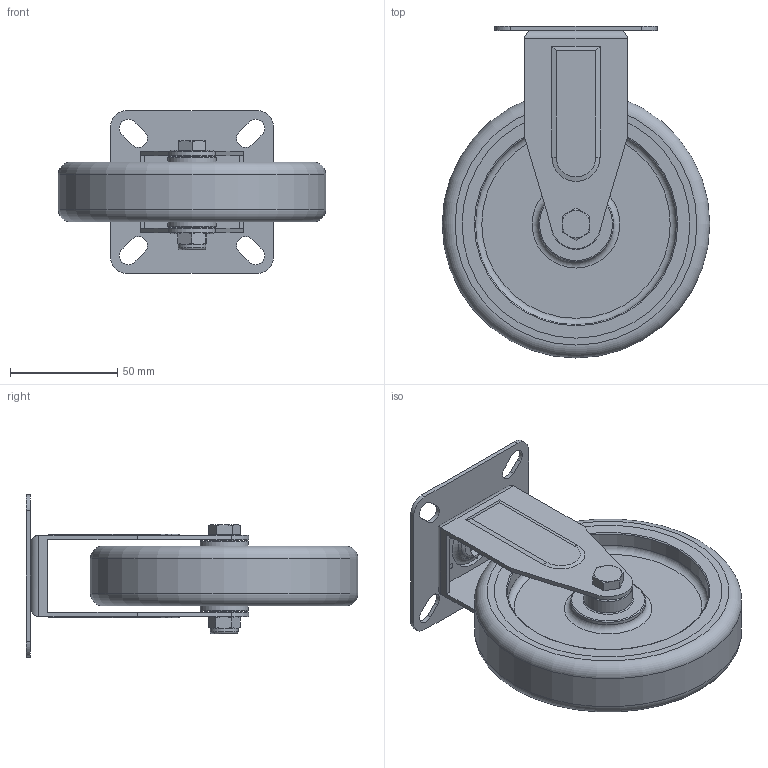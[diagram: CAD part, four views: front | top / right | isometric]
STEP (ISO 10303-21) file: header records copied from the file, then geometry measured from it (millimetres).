
FILE_DESCRIPTION(/* description */ ('www.motedis.com/part/10038','CAx-IF Rec.Pracs.---Representation and Presentation of Product Manufacturing Information (PMI)---4.0---2014-10-13'),/* implementation_level */ '2;1');
FILE_NAME(/* name */ 'Motedis 10038.stp',/* time_stamp */ '2026-04-22T14:51:41+02:00',/* author */ ('Motedis'),/* organization */ ('Motedis GmbH'),/* preprocessor_version */ 'ST-DEVELOPER v20.1',/* originating_system */ 'Autodesk Inventor 2026',/* authorisation */ 'Motedis GmbH');
FILE_SCHEMA (('AP242_MANAGED_MODEL_BASED_3D_ENGINEERING_MIM_LF { 1 0 10303 442 2 1 4 }'));
Length unit declared in the file: millimetre
Products named in the file (2): Motedis 10038; Motedis 10038_Simplify_1
Assembly tree (1 placements, depth 2):
  Motedis 10038
    Motedis 10038_Simplify_1
Bounding box: 125 x 155 x 76 mm (x, y, z)
Volume: 248898.1 mm3; surface area: 78348.4 mm2
Topology: 7 solids, 7 shells, 256 faces, 606 edges, 389 vertices
Faces by surface type: plane 100, cylinder 83, cone 36, torus 31, bspline 6
Full cylindrical faces by diameter (mm): 6.8 x2, 8 x37, 8.5 x2, 9 x1, 10 x4, 13 x1, 22.5 x2, 29 x1, 35 x2, 94 x2, 125 x1
Entity records: 20370 total; most frequent: CARTESIAN_POINT 14093, DIRECTION 1251, ORIENTED_EDGE 1212, EDGE_CURVE 606, AXIS2_PLACEMENT_3D 510, VERTEX_POINT 389, EDGE_LOOP 303, STYLED_ITEM 265
